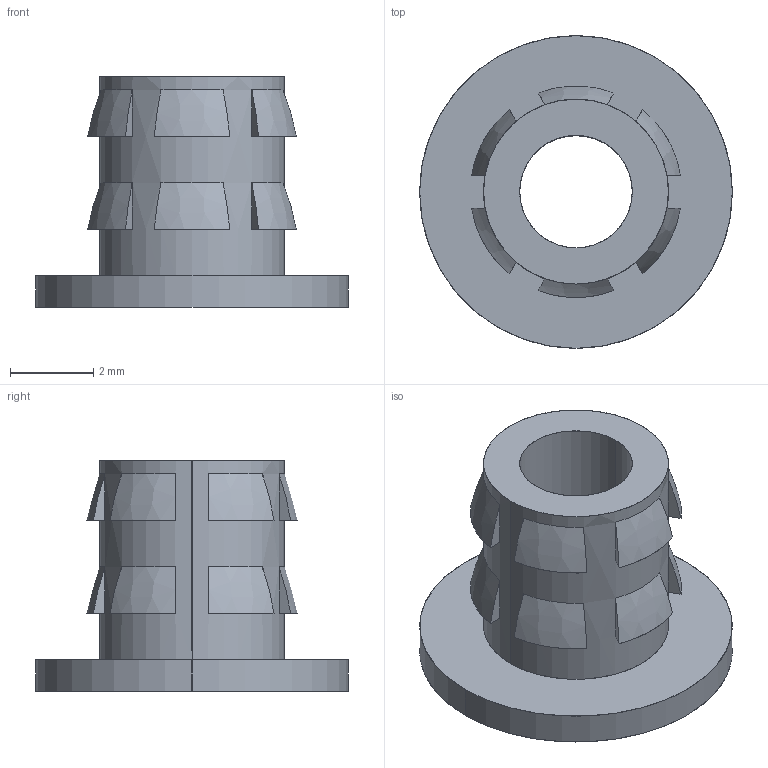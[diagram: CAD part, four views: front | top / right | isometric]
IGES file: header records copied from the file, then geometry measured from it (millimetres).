
Start section: SolidWorks IGES file using analytic representation for surfaces
Global section: file name: G:\thermofab project\INSERT\insert project\INSERT 3D\flanged insert 6-32 S1.IGS; native system: SolidWorks 2015; preprocessor: SolidWorks 2015; author: Administrator; date: 170809.172149; units: millimetre
Bounding box: 7.52 x 7.52 x 5.55 mm (x, y, z)
Surface area: 220.9 mm2 (no closed solid volume)
Topology: 0 solids, 0 shells, 59 faces, 512 edges, 512 vertices
Faces by surface type: bspline 51, revolution 8
